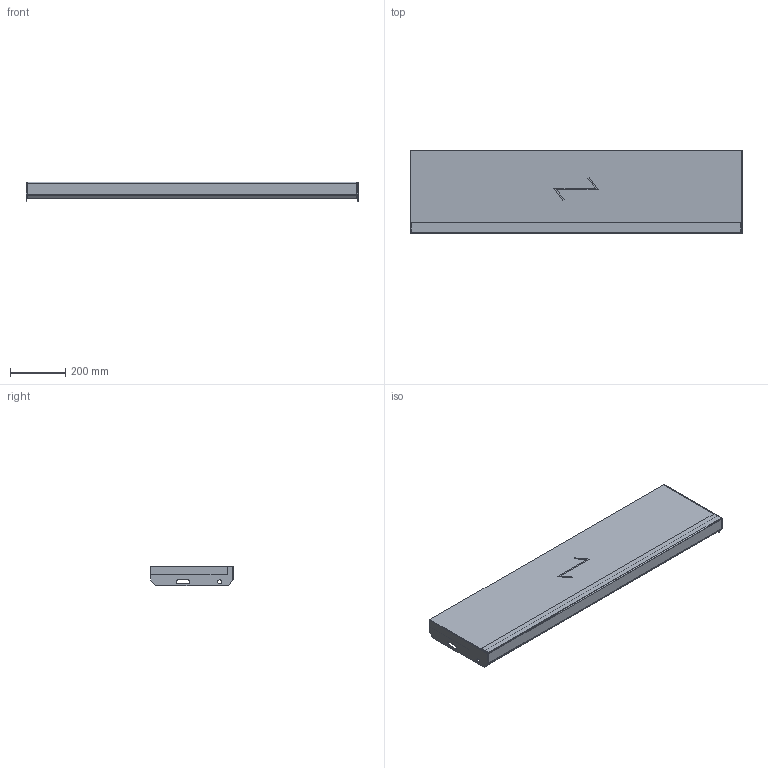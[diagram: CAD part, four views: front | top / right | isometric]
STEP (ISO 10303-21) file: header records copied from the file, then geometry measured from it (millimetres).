
FILE_DESCRIPTION (( 'STEP AP203' ), '1' );
FILE_NAME ('StegTH6-S-nya_steget-1200x300.STEP', '2020-03-04T07:45:56', ( '' ), ( '' ), 'SwSTEP 2.0', 'SolidWorks 2019', '' );
FILE_SCHEMA (( 'CONFIG_CONTROL_DESIGN' ));
Length unit declared in the file: millimetre
Products named in the file (5): SW0000039008; SW0000039578; StegTH6-S-nya_steget-1200x300; SW0000038703; SW0000039248
Assembly tree (5 placements, depth 3):
  StegTH6-S-nya_steget-1200x300
    SW0000039578
      SW0000039008
      SW0000039248
      SW0000038703  x2
Bounding box: 1200 x 300 x 72 mm (x, y, z)
Volume: 10274866 mm3; surface area: 1073474.4 mm2
Topology: 4 solids, 4 shells, 67 faces, 158 edges, 100 vertices
Faces by surface type: plane 51, cylinder 16
Entity records: 2002 total; most frequent: DIRECTION 261, CARTESIAN_POINT 254, ORIENTED_EDGE 238, EDGE_CURVE 119, LINE 99, VECTOR 99, AXIS2_PLACEMENT_3D 81, VERTEX_POINT 74
